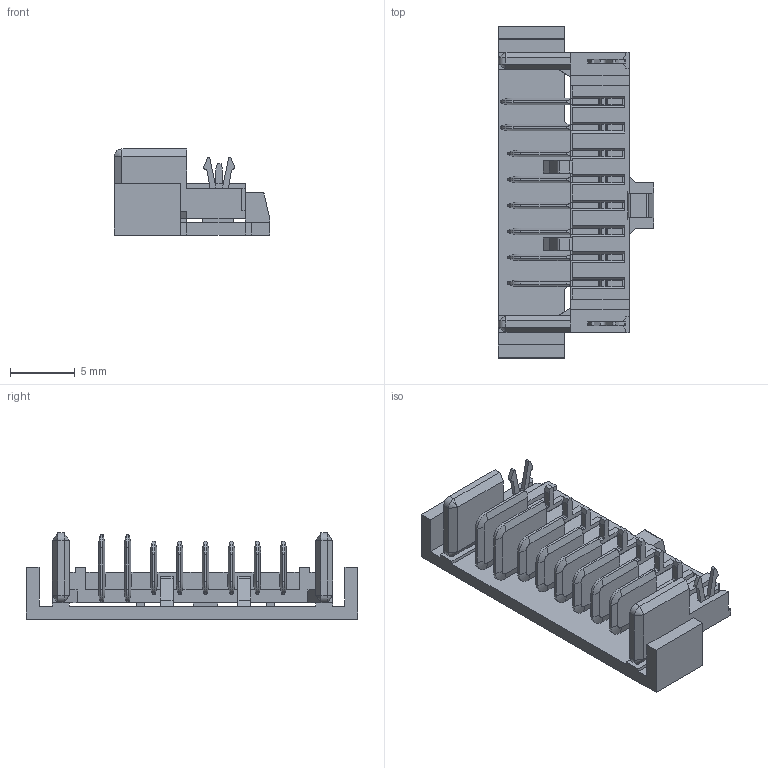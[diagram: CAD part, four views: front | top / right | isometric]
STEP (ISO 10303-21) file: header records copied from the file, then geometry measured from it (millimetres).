
FILE_DESCRIPTION((''),'2;1');
FILE_NAME('ASM0001_ASM','2012-06-12T',('12109895'),(''),'PRO/ENGINEER BY PARAMETRIC TECHNOLOGY CORPORATION, 2011190','PRO/ENGINEER BY PARAMETRIC TECHNOLOGY CORPORATION, 2011190','');
FILE_SCHEMA(('CONFIG_CONTROL_DESIGN'));
Length unit declared in the file: millimetre
Products named in the file (3): PRT0006; PRT0007; ASM0001_ASM
Assembly tree (2 placements, depth 2):
  ASM0001_ASM
    PRT0006
    PRT0007
Bounding box: 12 x 25.6 x 6.65 mm (x, y, z)
Volume: 611.4 mm3; surface area: 1825.3 mm2
Topology: 2 solids, 2 shells, 966 faces, 2941 edges, 1912 vertices
Faces by surface type: plane 731, cylinder 195, cone 40
Entity records: 32831 total; most frequent: CARTESIAN_POINT 6088, ORIENTED_EDGE 5866, DIRECTION 5245, EDGE_CURVE 2933, VECTOR 2443, LINE 2443, VERTEX_POINT 1912, AXIS2_PLACEMENT_3D 1401
